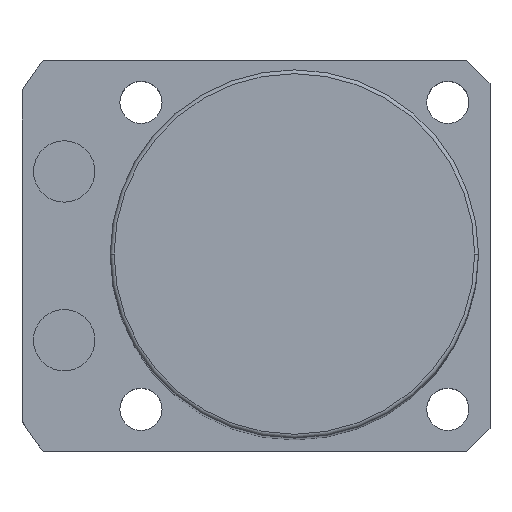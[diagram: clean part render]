
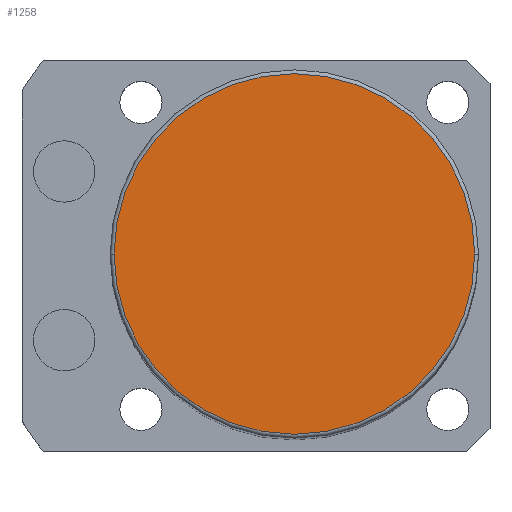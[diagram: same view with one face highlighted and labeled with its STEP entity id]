
A CAD part, top view. The second image highlights one B-rep face of the part: STEP entity #1258.
In plain terms, the highlighted planar face has unit normal (0, 0, 1).
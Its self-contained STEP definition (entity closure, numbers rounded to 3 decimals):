
#81 = PLANE ( 'NONE',  #1453 ) ;
#90 = CARTESIAN_POINT ( 'NONE',  ( 0., 0., 151. ) ) ;
#440 = DIRECTION ( 'NONE',  ( 0., 0., 1. ) ) ;
#490 = DIRECTION ( 'NONE',  ( 0., 0., 1. ) ) ;
#536 = EDGE_LOOP ( 'NONE', ( #782, #614 ) ) ;
#614 = ORIENTED_EDGE ( 'NONE', *, *, #853, .T. ) ;
#668 = FACE_OUTER_BOUND ( 'NONE', #536, .T. ) ;
#782 = ORIENTED_EDGE ( 'NONE', *, *, #2214, .T. ) ;
#835 = VERTEX_POINT ( 'NONE', #1776 ) ;
#853 = EDGE_CURVE ( 'NONE', #835, #1952, #1068, .T. ) ;
#1017 = DIRECTION ( 'NONE',  ( 1., 0., 0. ) ) ;
#1068 = CIRCLE ( 'NONE', #1370, 23.5 ) ;
#1188 = AXIS2_PLACEMENT_3D ( 'NONE', #1745, #440, #2297 ) ;
#1258 = ADVANCED_FACE ( 'NONE', ( #668 ), #81, .T. ) ;
#1370 = AXIS2_PLACEMENT_3D ( 'NONE', #2144, #490, #1017 ) ;
#1453 = AXIS2_PLACEMENT_3D ( 'NONE', #90, #2136, #2301 ) ;
#1644 = CARTESIAN_POINT ( 'NONE',  ( 23.5, 0., 151. ) ) ;
#1745 = CARTESIAN_POINT ( 'NONE',  ( 0., 0., 151. ) ) ;
#1776 = CARTESIAN_POINT ( 'NONE',  ( -23.5, 0., 151. ) ) ;
#1918 = CIRCLE ( 'NONE', #1188, 23.5 ) ;
#1952 = VERTEX_POINT ( 'NONE', #1644 ) ;
#2136 = DIRECTION ( 'NONE',  ( 0., 0., 1. ) ) ;
#2144 = CARTESIAN_POINT ( 'NONE',  ( 0., 0., 151. ) ) ;
#2214 = EDGE_CURVE ( 'NONE', #1952, #835, #1918, .T. ) ;
#2297 = DIRECTION ( 'NONE',  ( 1., 0., 0. ) ) ;
#2301 = DIRECTION ( 'NONE',  ( 1., 0., 0. ) ) ;
